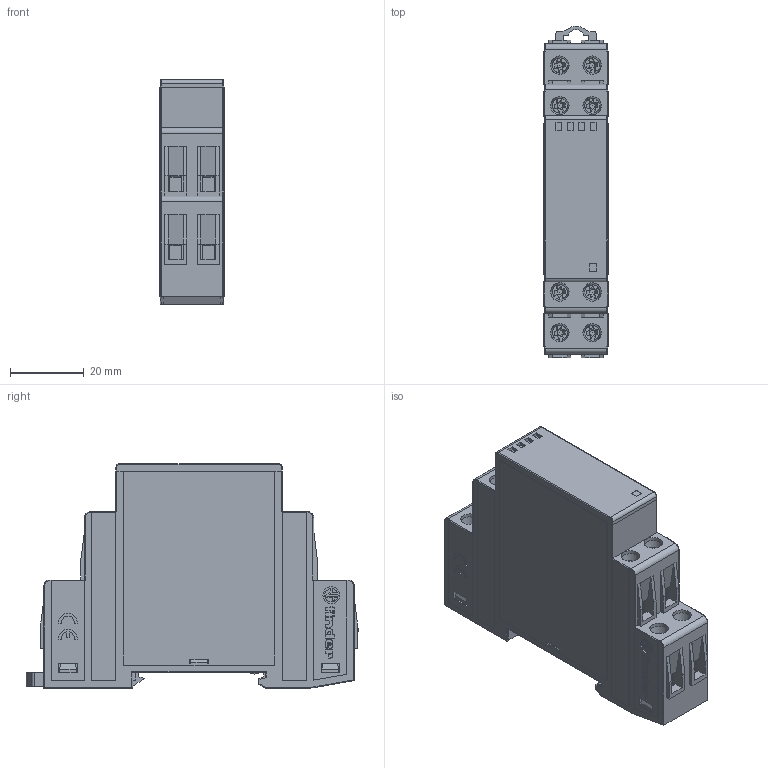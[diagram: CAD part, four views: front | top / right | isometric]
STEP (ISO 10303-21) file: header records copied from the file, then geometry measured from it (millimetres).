
FILE_DESCRIPTION( ( 'Unknown' ), '1' );
FILE_NAME( 'C:/Users/pdellaca/Desktop/7P_37/7P_37.stp', 'Unknown', ( 'Unknown' ), ( 'Unknown' ), 'PSStep 15.0.49', 'Unknown', ' ' );
FILE_SCHEMA( ( 'AUTOMOTIVE_DESIGN { 1 0 10303 214 1 1 1 1 }' ) );
Length unit declared in the file: millimetre
Products named in the file (61): top; 17P7000
Bounding box: 17.5 x 89.85 x 60.8 mm (x, y, z)
Surface area: 21934.6 mm2 (no closed solid volume)
Topology: 0 solids, 1433 shells, 1433 faces, 8702 edges, 8666 vertices
Faces by surface type: plane 1206, cylinder 167, bspline 17, revolution 16, extrusion 14, torus 12, cone 1
Full cylindrical faces by diameter (mm): 3 x2, 4.566 x2, 4.6 x6, 5 x8
Entity records: 98922 total; most frequent: CARTESIAN_POINT 24799, DIRECTION 11774, VERTEX_POINT 8652, ORIENTED_EDGE 8644, EDGE_CURVE 8644, VECTOR 7660, LINE 7646, AXIS2_PLACEMENT_3D 2049
